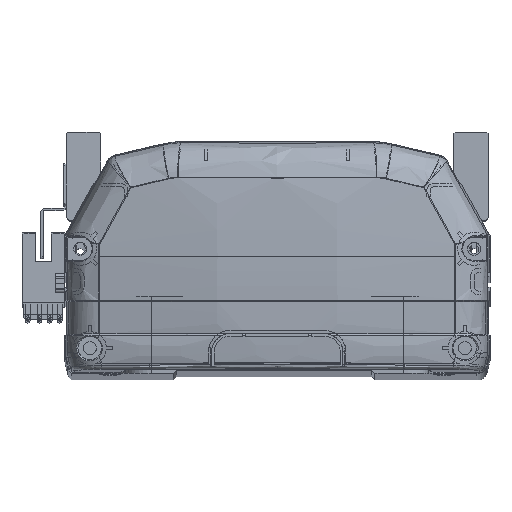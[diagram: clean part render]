
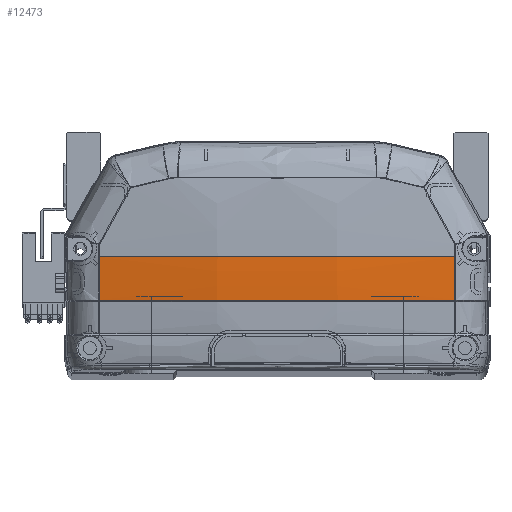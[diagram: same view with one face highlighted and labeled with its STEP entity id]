
A CAD part, top view. The second image highlights one B-rep face of the part: STEP entity #12473.
In plain terms, the highlighted free-form (B-spline) face has degree [3, 3] with [4, 4] control points.
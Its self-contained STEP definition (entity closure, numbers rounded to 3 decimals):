
#230 = CIRCLE ( 'NONE', #3598, 6395.966 ) ;
#1424 = CARTESIAN_POINT ( 'NONE',  ( 56.647, 35.969, -5.158 ) ) ;
#1950 = EDGE_CURVE ( 'NONE', #43780, #7351, #13939, .T. ) ;
#2505 = EDGE_CURVE ( 'NONE', #43780, #19247, #8965, .T. ) ;
#2556 = CARTESIAN_POINT ( 'NONE',  ( -56.647, 36., -5.158 ) ) ;
#2583 =( BOUNDED_SURFACE ( )  B_SPLINE_SURFACE ( 3, 3, ( 
 ( #32350, #17943, #10724, #47018 ),
 ( #17504, #24841, #21336, #14086 ),
 ( #36374, #32045, #21181, #18104 ),
 ( #46859, #13779, #43482, #32655 ) ),
 .UNSPECIFIED., .F., .F., .F. ) 
 B_SPLINE_SURFACE_WITH_KNOTS ( ( 4, 4 ),
 ( 4, 4 ),
 ( 0., 1. ),
 ( 0., 1. ),
 .UNSPECIFIED. ) 
 GEOMETRIC_REPRESENTATION_ITEM ( )  RATIONAL_B_SPLINE_SURFACE ( (
 ( 1., 1., 1., 1.),
 ( 0.99, 0.99, 0.99, 0.99),
 ( 0.99, 0.99, 0.99, 0.99),
 ( 1., 1., 1., 1.) ) ) 
 REPRESENTATION_ITEM ( '' )  SURFACE ( )  );
#2962 = CARTESIAN_POINT ( 'NONE',  ( 1.152, 22.225, -9.568 ) ) ;
#3429 = CARTESIAN_POINT ( 'NONE',  ( 23.877, 22.225, -8.763 ) ) ;
#3598 = AXIS2_PLACEMENT_3D ( 'NONE', #42665, #35711, #13749 ) ;
#5536 = ORIENTED_EDGE ( 'NONE', *, *, #33788, .F. ) ;
#6791 = CARTESIAN_POINT ( 'NONE',  ( 4.761, 22.225, -9.537 ) ) ;
#6808 = CARTESIAN_POINT ( 'NONE',  ( -56.647, 36., -5.158 ) ) ;
#7351 = VERTEX_POINT ( 'NONE', #26870 ) ;
#8965 = B_SPLINE_CURVE_WITH_KNOTS ( 'NONE', 3,
 ( #34464, #23413, #26947, #1424 ),
 .UNSPECIFIED., .F., .F.,
 ( 4, 4 ),
 ( 0., 1. ),
 .UNSPECIFIED. ) ;
#10724 = CARTESIAN_POINT ( 'NONE',  ( 57.335, 31.38, -5.042 ) ) ;
#11664 = ORIENTED_EDGE ( 'NONE', *, *, #46757, .F. ) ;
#12473 = ADVANCED_FACE ( 'NONE', ( #26129 ), #2583, .T. ) ;
#13749 = DIRECTION ( 'NONE',  ( -1., 0., 0. ) ) ;
#13779 = CARTESIAN_POINT ( 'NONE',  ( -57.335, 26.762, -4.928 ) ) ;
#13939 = B_SPLINE_CURVE_WITH_KNOTS ( 'NONE', 3,
 ( #35672, #24779, #28733, #3429, #40013, #18039, #35988, #6791, #17592, #2962, #14494, #14023, #32427 ),
 .UNSPECIFIED., .F., .F.,
 ( 4, 2, 2, 1, 2, 2, 4 ),
 ( 0., 0.25, 0.375, 0.438, 0.469, 0.5, 1. ),
 .UNSPECIFIED. ) ;
#14023 = CARTESIAN_POINT ( 'NONE',  ( -38.235, 22.225, -7.93 ) ) ;
#14086 = CARTESIAN_POINT ( 'NONE',  ( 19.295, 36., -11.535 ) ) ;
#14176 = VERTEX_POINT ( 'NONE', #14419 ) ;
#14419 = CARTESIAN_POINT ( 'NONE',  ( 56.647, 36., -5.158 ) ) ;
#14494 = CARTESIAN_POINT ( 'NONE',  ( -19.28, 22.225, -9.565 ) ) ;
#15431 = DIRECTION ( 'NONE',  ( 0., 1., 0. ) ) ;
#16297 = CARTESIAN_POINT ( 'NONE',  ( 56.647, 35.969, -5.158 ) ) ;
#17504 = CARTESIAN_POINT ( 'NONE',  ( 19.295, 21.828, -11.186 ) ) ;
#17592 = CARTESIAN_POINT ( 'NONE',  ( 2.357, 22.225, -9.562 ) ) ;
#17943 = CARTESIAN_POINT ( 'NONE',  ( 57.335, 26.762, -4.928 ) ) ;
#18039 = CARTESIAN_POINT ( 'NONE',  ( 11.954, 22.225, -9.367 ) ) ;
#18104 = CARTESIAN_POINT ( 'NONE',  ( -19.295, 36., -11.535 ) ) ;
#18468 = VERTEX_POINT ( 'NONE', #2556 ) ;
#19247 = VERTEX_POINT ( 'NONE', #16297 ) ;
#19926 = AXIS2_PLACEMENT_3D ( 'NONE', #26017, #15431, #29682 ) ;
#21181 = CARTESIAN_POINT ( 'NONE',  ( -19.295, 31.274, -11.535 ) ) ;
#21336 = CARTESIAN_POINT ( 'NONE',  ( 19.295, 31.274, -11.535 ) ) ;
#21898 = CARTESIAN_POINT ( 'NONE',  ( -56.661, 22.225, -4.818 ) ) ;
#23413 = CARTESIAN_POINT ( 'NONE',  ( 56.652, 26.806, -5.044 ) ) ;
#24779 = CARTESIAN_POINT ( 'NONE',  ( 47.432, 22.225, -6.377 ) ) ;
#24841 = CARTESIAN_POINT ( 'NONE',  ( 19.295, 26.549, -11.419 ) ) ;
#26017 = CARTESIAN_POINT ( 'NONE',  ( 0., 36., 330.833 ) ) ;
#26129 = FACE_OUTER_BOUND ( 'NONE', #36030, .T. ) ;
#26870 = CARTESIAN_POINT ( 'NONE',  ( -56.661, 22.225, -4.818 ) ) ;
#26947 = CARTESIAN_POINT ( 'NONE',  ( 56.647, 31.387, -5.158 ) ) ;
#27538 = CARTESIAN_POINT ( 'NONE',  ( 56.661, 22.225, -4.818 ) ) ;
#28733 = CARTESIAN_POINT ( 'NONE',  ( 38.071, 22.225, -7.566 ) ) ;
#29682 = DIRECTION ( 'NONE',  ( 0., 0., -1. ) ) ;
#31271 = CIRCLE ( 'NONE', #19926, 340.733 ) ;
#32045 = CARTESIAN_POINT ( 'NONE',  ( -19.295, 26.549, -11.419 ) ) ;
#32350 = CARTESIAN_POINT ( 'NONE',  ( 57.335, 22.148, -4.7 ) ) ;
#32427 = CARTESIAN_POINT ( 'NONE',  ( -56.661, 22.225, -4.818 ) ) ;
#32446 = CARTESIAN_POINT ( 'NONE',  ( -56.652, 26.814, -5.045 ) ) ;
#32655 = CARTESIAN_POINT ( 'NONE',  ( -57.335, 36., -5.042 ) ) ;
#32928 = B_SPLINE_CURVE_WITH_KNOTS ( 'NONE', 3,
 ( #6808, #43281, #32446, #21898 ),
 .UNSPECIFIED., .F., .F.,
 ( 4, 4 ),
 ( 0., 1. ),
 .UNSPECIFIED. ) ;
#33788 = EDGE_CURVE ( 'NONE', #18468, #7351, #32928, .T. ) ;
#34097 = ORIENTED_EDGE ( 'NONE', *, *, #2505, .F. ) ;
#34391 = EDGE_CURVE ( 'NONE', #14176, #18468, #31271, .T. ) ;
#34464 = CARTESIAN_POINT ( 'NONE',  ( 56.661, 22.225, -4.818 ) ) ;
#35672 = CARTESIAN_POINT ( 'NONE',  ( 56.661, 22.225, -4.818 ) ) ;
#35711 = DIRECTION ( 'NONE',  ( 0., 0., -1. ) ) ;
#35988 = CARTESIAN_POINT ( 'NONE',  ( 8.363, 22.225, -9.48 ) ) ;
#36030 = EDGE_LOOP ( 'NONE', ( #37216, #11664, #34097, #44497, #5536 ) ) ;
#36374 = CARTESIAN_POINT ( 'NONE',  ( -19.295, 21.828, -11.186 ) ) ;
#37216 = ORIENTED_EDGE ( 'NONE', *, *, #34391, .F. ) ;
#40013 = CARTESIAN_POINT ( 'NONE',  ( 19.121, 22.225, -9.064 ) ) ;
#42665 = CARTESIAN_POINT ( 'NONE',  ( 6452.613, 35.969, -5.158 ) ) ;
#43281 = CARTESIAN_POINT ( 'NONE',  ( -56.647, 31.405, -5.158 ) ) ;
#43482 = CARTESIAN_POINT ( 'NONE',  ( -57.335, 31.38, -5.042 ) ) ;
#43780 = VERTEX_POINT ( 'NONE', #27538 ) ;
#44497 = ORIENTED_EDGE ( 'NONE', *, *, #1950, .T. ) ;
#46757 = EDGE_CURVE ( 'NONE', #19247, #14176, #230, .T. ) ;
#46859 = CARTESIAN_POINT ( 'NONE',  ( -57.335, 22.148, -4.7 ) ) ;
#47018 = CARTESIAN_POINT ( 'NONE',  ( 57.335, 36., -5.042 ) ) ;
